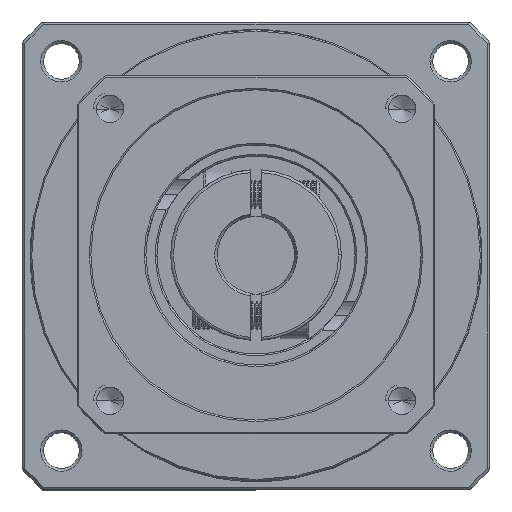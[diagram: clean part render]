
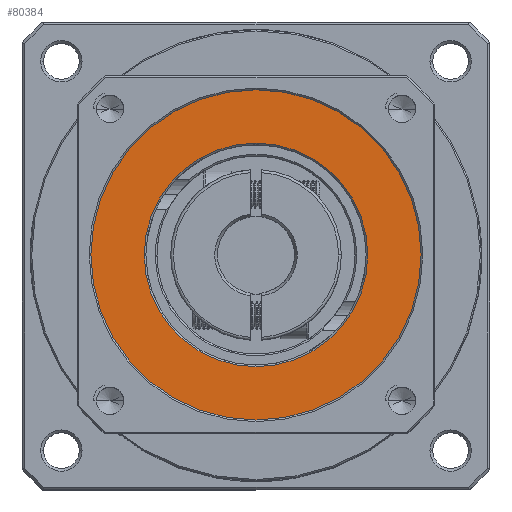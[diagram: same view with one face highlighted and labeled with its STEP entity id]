
A CAD part, top view. The second image highlights one B-rep face of the part: STEP entity #80384.
In plain terms, the highlighted planar face has unit normal (0, 0, 1).
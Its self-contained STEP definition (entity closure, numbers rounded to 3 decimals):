
#9393 = DIRECTION ( 'NONE',  ( 1., 0., 0. ) ) ;
#9846 = DIRECTION ( 'NONE',  ( 1., 0., 0. ) ) ;
#14757 = ORIENTED_EDGE ( 'NONE', *, *, #43298, .T. ) ;
#16980 = AXIS2_PLACEMENT_3D ( 'NONE', #70137, #39341, #9846 ) ;
#16985 = CARTESIAN_POINT ( 'NONE',  ( -50.485, 43.615, -29.508 ) ) ;
#18068 = EDGE_CURVE ( 'NONE', #125473, #46264, #22602, .T. ) ;
#22602 = CIRCLE ( 'NONE', #16980, 20.3 ) ;
#26339 = PLANE ( 'NONE',  #57633 ) ;
#27417 = CARTESIAN_POINT ( 'NONE',  ( -30.185, 43.615, -29.508 ) ) ;
#29230 = CARTESIAN_POINT ( 'NONE',  ( -50.485, 43.615, -29.508 ) ) ;
#31397 = CARTESIAN_POINT ( 'NONE',  ( -20.485, 43.615, -29.508 ) ) ;
#32234 = CIRCLE ( 'NONE', #130481, 30. ) ;
#39279 = DIRECTION ( 'NONE',  ( 1., 0., 0. ) ) ;
#39341 = DIRECTION ( 'NONE',  ( 0., 0., -1. ) ) ;
#40146 = ORIENTED_EDGE ( 'NONE', *, *, #47188, .T. ) ;
#43298 = EDGE_CURVE ( 'NONE', #77663, #114680, #32234, .T. ) ;
#46264 = VERTEX_POINT ( 'NONE', #72513 ) ;
#46728 = DIRECTION ( 'NONE',  ( 1., 0., 0. ) ) ;
#47188 = EDGE_CURVE ( 'NONE', #46264, #125473, #126841, .T. ) ;
#48540 = EDGE_LOOP ( 'NONE', ( #95256, #40146 ) ) ;
#57633 = AXIS2_PLACEMENT_3D ( 'NONE', #16985, #87430, #117172 ) ;
#59085 = DIRECTION ( 'NONE',  ( 0., 0., 1. ) ) ;
#70137 = CARTESIAN_POINT ( 'NONE',  ( -50.485, 43.615, -29.508 ) ) ;
#72158 = EDGE_LOOP ( 'NONE', ( #14757, #89504 ) ) ;
#72513 = CARTESIAN_POINT ( 'NONE',  ( -70.785, 43.615, -29.508 ) ) ;
#77663 = VERTEX_POINT ( 'NONE', #31397 ) ;
#78449 = CARTESIAN_POINT ( 'NONE',  ( -50.485, 43.615, -29.508 ) ) ;
#78845 = DIRECTION ( 'NONE',  ( 0., 0., 1. ) ) ;
#80384 = ADVANCED_FACE ( 'NONE', ( #102578, #91670 ), #26339, .T. ) ;
#87253 = CARTESIAN_POINT ( 'NONE',  ( -50.485, 43.615, -29.508 ) ) ;
#87430 = DIRECTION ( 'NONE',  ( 0., 0., 1. ) ) ;
#88003 = CARTESIAN_POINT ( 'NONE',  ( -80.485, 43.615, -29.508 ) ) ;
#89383 = DIRECTION ( 'NONE',  ( 0., 0., -1. ) ) ;
#89504 = ORIENTED_EDGE ( 'NONE', *, *, #105609, .T. ) ;
#91670 = FACE_OUTER_BOUND ( 'NONE', #72158, .T. ) ;
#95256 = ORIENTED_EDGE ( 'NONE', *, *, #18068, .T. ) ;
#97362 = AXIS2_PLACEMENT_3D ( 'NONE', #78449, #89383, #39279 ) ;
#102578 = FACE_BOUND ( 'NONE', #48540, .T. ) ;
#105609 = EDGE_CURVE ( 'NONE', #114680, #77663, #119462, .T. ) ;
#112241 = AXIS2_PLACEMENT_3D ( 'NONE', #29230, #59085, #9393 ) ;
#114680 = VERTEX_POINT ( 'NONE', #88003 ) ;
#117172 = DIRECTION ( 'NONE',  ( 1., 0., 0. ) ) ;
#119462 = CIRCLE ( 'NONE', #112241, 30. ) ;
#125473 = VERTEX_POINT ( 'NONE', #27417 ) ;
#126841 = CIRCLE ( 'NONE', #97362, 20.3 ) ;
#130481 = AXIS2_PLACEMENT_3D ( 'NONE', #87253, #78845, #46728 ) ;
